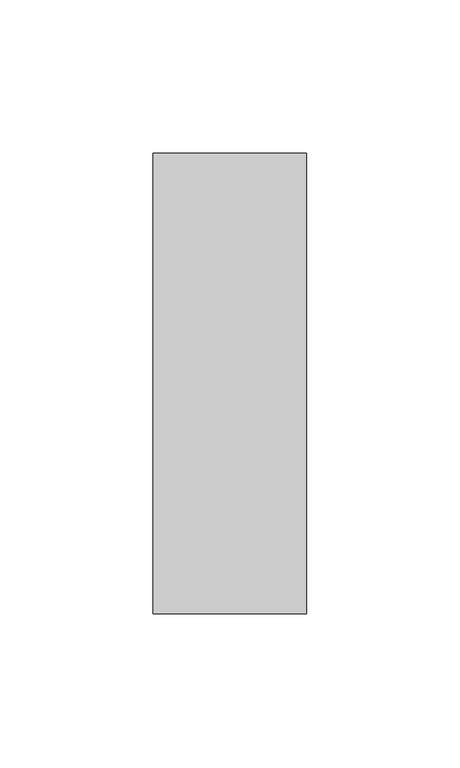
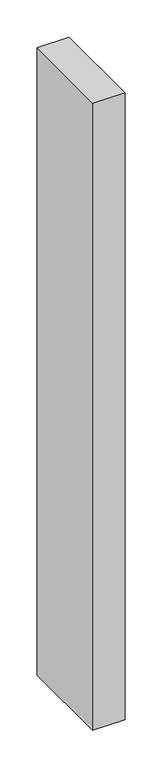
"""IFC4 building model written with IfcOpenShell, lengths in millimetres: member geometry, Прямоугольный импост : 50 x 150 мм."""

from ifc_helpers import new_model, si_unit, origin, place, context, project, spatial, faceted_brep, source, transform, mapped, element, save


def member_c5b2570d(model_context):
    return source(origin(), model_context, "Body", "Brep", [
        faceted_brep([(25.0, 75.0, 0.0), (-25.0, 75.0, 0.0), (-25.0, -75.0, 0.0), (25.0, -75.0, 0.0), (25.0, 75.0, -1031.2925408), (-25.0, 75.0, -1030.6406844), (-25.0, -75.0, -1030.2576594), (25.0, -75.0, -1030.9095157)], [[[0, 1, 2, 3]], [[1, 0, 4, 5]], [[2, 1, 5, 6]], [[3, 2, 6, 7]], [[0, 3, 7, 4]], [[4, 7, 6, 5]]]),
    ])


if __name__ == "__main__":
    model = new_model("IFC4")
    model_context = context("Model", 3, world=origin())
    ifc_project = project(units=[si_unit("LENGTHUNIT", "METRE", prefix="MILLI")], contexts=[model_context])
    site = spatial("IfcSite", under=ifc_project)
    building = spatial("IfcBuilding", under=site)
    placement = place(None, origin())
    member_shape = member_c5b2570d(model_context)
    element("IfcMember", 1, ObjectType="Прямоугольный импост : 50 x 150 мм", at=placement, inside=building, context=model_context, shape_type="MappedRepresentation", body=[
        mapped(member_shape, transform((0.0, 0.0, 0.0), x_axis=(1.0, 0.0, 0.0), y_axis=(0.0, 1.0, 0.0), z_axis=(0.0, 0.0, 1.0))),
    ])
    save(model, "model.ifc")
